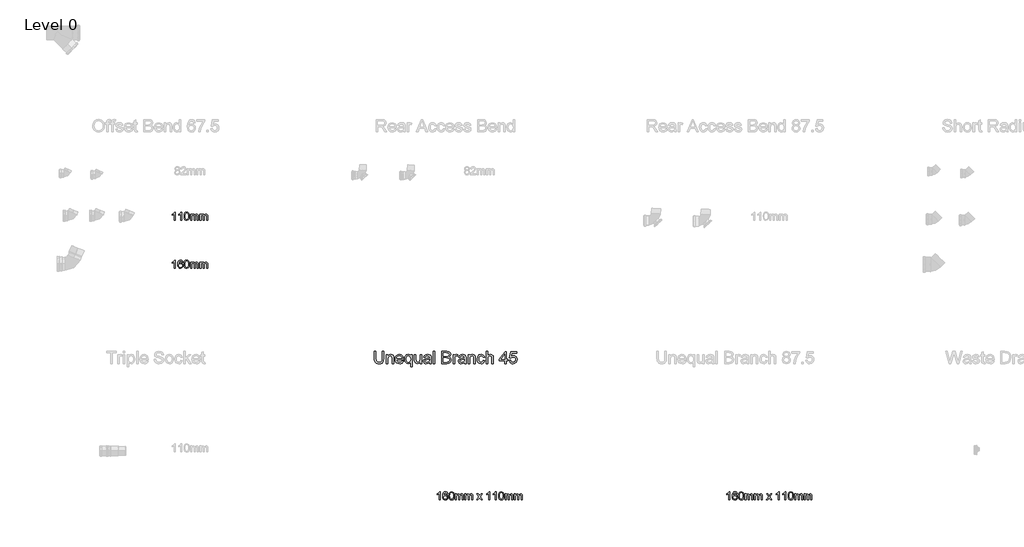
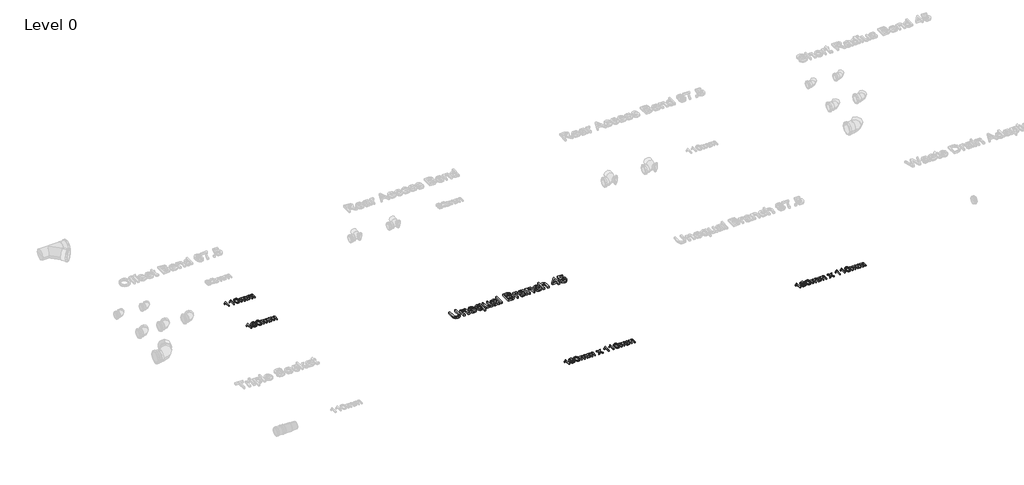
# One storey, part 3 of 23: 5 proxies.
"""IFC4 building model written with IfcOpenShell, lengths in millimetres."""

import ifcopenshell
import ifcopenshell.guid

model = None  # the IFC model being written
_history = None  # IfcOwnerHistory: only IFC2X3 demands one
_inside = {}  # id of a spatial element -> (the spatial element, [elements in it])
_under = {}  # id of a project, library or spatial element -> (it, [spatial elements below it])
_declared = {}  # id of a project -> (the project, [libraries it declares])
_typed = {}  # id of a type object -> (the type object, [elements of that type])
_made_of = {}  # id of a material, layer set ... -> (it, [elements and type objects made of it])


def new_model(schema):
    """Start an empty IFC model of exactly this schema.

    Asked for "IFC4X3", IfcOpenShell would pick the latest addendum, in which some entities
    have other attributes; the version numbers below select the first issue.
    IFC2X3 requires an IfcOwnerHistory on every rooted entity: one is made here for all.
    """
    global model, _history
    if schema == "IFC4X3":
        model = ifcopenshell.file(schema_version=(4, 3, 0, 0))
    else:
        model = ifcopenshell.file(schema=schema)
    _inside.clear()
    _under.clear()
    _declared.clear()
    _typed.clear()
    _made_of.clear()
    _history = None
    if model.schema == "IFC2X3":
        org = make("IfcOrganization", Name="unknown")
        user = make(
            "IfcPersonAndOrganization",
            ThePerson=make("IfcPerson", FamilyName="unknown"),
            TheOrganization=org,
        )
        app = make(
            "IfcApplication",
            ApplicationDeveloper=org,
            Version="unknown",
            ApplicationFullName="unknown",
            ApplicationIdentifier="unknown",
        )
        _history = make(
            "IfcOwnerHistory",
            OwningUser=user,
            OwningApplication=app,
            ChangeAction="ADDED",
            CreationDate=0,
        )
    return model


def make(cls, **values):
    """One entity of the class cls with the attributes given. An attribute that is None is left unset."""
    return model.create_entity(
        cls, **{name: value for name, value in values.items() if value is not None}
    )


def rooted(cls, **values):
    """An entity with a GlobalId (a new one), such as an element, a storey or a relation."""
    return make(cls, GlobalId=ifcopenshell.guid.new(), OwnerHistory=_history, **values)


def si_unit(unit_type, name, prefix=None):
    """IfcSIUnit, for example si_unit("LENGTHUNIT", "METRE", prefix="MILLI")."""
    return make("IfcSIUnit", UnitType=unit_type, Prefix=prefix, Name=name)


def assignment(units):
    """IfcUnitAssignment: the units of a project."""
    return None if units is None else make("IfcUnitAssignment", Units=units)


def point(xyz):
    """IfcCartesianPoint."""
    return None if xyz is None else make("IfcCartesianPoint", Coordinates=xyz)


def direction(xyz):
    """IfcDirection."""
    return None if xyz is None else make("IfcDirection", DirectionRatios=xyz)


def frame(location, z_axis=None, x_axis=None):
    """IfcAxis2Placement3D, a coordinate frame: its origin and axes. An axis left out is left unset."""
    return make(
        "IfcAxis2Placement3D",
        Location=point(location),
        Axis=direction(z_axis),
        RefDirection=direction(x_axis),
    )


def origin():
    """The frame at (0, 0, 0) with its axes left unset."""
    return frame((0.0, 0.0, 0.0))


def origin_with_axes():
    """The frame at (0, 0, 0) with the z axis (0, 0, 1) and the x axis (1, 0, 0) written out."""
    return frame((0.0, 0.0, 0.0), z_axis=(0.0, 0.0, 1.0), x_axis=(1.0, 0.0, 0.0))


def place(relative_to, where):
    """IfcLocalPlacement: puts the frame where relative to a parent placement (None: the world)."""
    return make(
        "IfcLocalPlacement", PlacementRelTo=relative_to, RelativePlacement=where
    )


def context(
    kind, dimensions, precision=None, world=None, true_north=None, identifier=None
):
    """IfcGeometricRepresentationContext, for example the 3D "Model" context."""
    return make(
        "IfcGeometricRepresentationContext",
        ContextIdentifier=identifier,
        ContextType=kind,
        CoordinateSpaceDimension=dimensions,
        Precision=precision,
        WorldCoordinateSystem=world,
        TrueNorth=true_north,
    )


def project(units=None, contexts=None):
    """IfcProject with its units and contexts."""
    return rooted(
        "IfcProject",
        Name="project",
        RepresentationContexts=contexts,
        UnitsInContext=assignment(units),
    )


def spatial(cls, under=None, at=None, **own):
    """A site, building, storey or space (cls), placed at a placement, below another one or the project."""
    s = rooted(cls, ObjectPlacement=at, **own)
    if under is not None:
        _under.setdefault(under.id(), (under, []))[1].append(s)
    return s


def polyline(points):
    """IfcPolyline through the points."""
    return make("IfcPolyline", Points=[point(p) for p in points])


def outline(outer, holes=None, kind="AREA"):
    """IfcArbitraryClosedProfileDef: a profile drawn as a closed curve; with holes, ...WithVoids."""
    if holes is None:
        return make("IfcArbitraryClosedProfileDef", ProfileType=kind, OuterCurve=outer)
    return make(
        "IfcArbitraryProfileDefWithVoids",
        ProfileType=kind,
        OuterCurve=outer,
        InnerCurves=holes,
    )


def extrude(swept, where, along, depth):
    """IfcExtrudedAreaSolid: the profile swept, set in the frame where, extruded along a direction by depth."""
    return make(
        "IfcExtrudedAreaSolid",
        SweptArea=swept,
        Position=where,
        ExtrudedDirection=direction(along),
        Depth=depth,
    )


def shape(context_of_items, identifier, shape_type, items):
    """IfcShapeRepresentation: the items that make up one representation, for example the "Body"."""
    return make(
        "IfcShapeRepresentation",
        ContextOfItems=context_of_items,
        RepresentationIdentifier=identifier,
        RepresentationType=shape_type,
        Items=items,
    )


def made_of(thing, what):
    """Note that an element or type object is made of a material, layer set ...; save() writes the relation."""
    if what is not None:
        _made_of.setdefault(what.id(), (what, []))[1].append(thing)
    return thing


def element(
    cls,
    number,
    at=None,
    inside=None,
    cuts=None,
    type_object=None,
    material=None,
    context=None,
    identifier="Body",
    shape_type=None,
    held_by="IfcProductDefinitionShape",
    body=None,
    shapes=None,
    **own,
):
    """One element of the class cls, such as IfcWall. Its Tag is "e" and its number.

    at: its placement. inside: the storey or other place that contains it. cuts: it is an
    opening in that element (IfcRelVoidsElement). A single representation is given by context,
    identifier, shape_type and body (its items); several are given by shapes. held_by: the class
    of the entity that holds the representations. save() writes the other relations.
    """
    e = rooted(cls, Tag="e%d" % number, ObjectPlacement=at, **own)
    if body is not None:
        shapes = [shape(context, identifier, shape_type, body)]
    if shapes is not None:
        e.Representation = make(held_by, Representations=shapes)
    if inside is not None:
        _inside.setdefault(inside.id(), (inside, []))[1].append(e)
    if cuts is not None:
        rooted(
            "IfcRelVoidsElement", RelatingBuildingElement=cuts, RelatedOpeningElement=e
        )
    if type_object is not None:
        _typed.setdefault(type_object.id(), (type_object, []))[1].append(e)
    return made_of(e, material)


def aggregate(whole, parts):
    """IfcRelAggregates: a whole, such as a stair, and the parts it consists of."""
    return rooted("IfcRelAggregates", RelatingObject=whole, RelatedObjects=parts)


def save(model, path):
    """Write the relations noted so far, then the file.

    IfcRelAggregates (storeys below a building ...), IfcRelContainedInSpatialStructure (elements
    in a storey), IfcRelDefinesByType, IfcRelAssociatesMaterial and IfcRelDeclares: one each for
    every whole, place, type object, material and project.
    """
    for whole, parts in _under.values():
        aggregate(whole, parts)
    for where, things in _inside.values():
        rooted(
            "IfcRelContainedInSpatialStructure",
            RelatedElements=things,
            RelatingStructure=where,
        )
    for kind, things in _typed.values():
        rooted("IfcRelDefinesByType", RelatedObjects=things, RelatingType=kind)
    for what, things in _made_of.values():
        rooted("IfcRelAssociatesMaterial", RelatedObjects=things, RelatingMaterial=what)
    for by, libraries in _declared.values():
        rooted("IfcRelDeclares", RelatingContext=by, RelatedDefinitions=libraries)
    model.write(path)


model = new_model("IFC4")

# Units and contexts
model_context = context("Model", 3, world=origin())
ifc_project = project(units=[si_unit("LENGTHUNIT", "METRE", prefix="MILLI")], contexts=[model_context])

# Site, building, storey
site = spatial("IfcSite", under=ifc_project)
building = spatial("IfcBuilding", under=site)
storey = spatial("IfcBuildingStorey", under=building, Name="Level 0", Elevation=0.0)

# Proxies
placement = place(None, origin())
element("IfcBuildingElementProxy", 1, Name="100mm Arial", ObjectType="100mm Arial", at=placement, inside=storey, context=model_context, shape_type="SweptSolid", body=[
    extrude(outline(polyline([(-17291.7293188, -742.2832696), (-17304.0370111, -742.2832696), (-17304.0370111, -665.5525004), (-17315.6956649, -673.8577889), (-17328.6523957, -680.0717312), (-17328.6523957, -668.4371158), (-17310.6115303, -656.9226927), (-17299.6620111, -643.8217312), (-17291.7293188, -643.8217312), (-17291.7293188, -742.2832696)])), origin_with_axes(), (0.0, 0.0, 1.0), 15.0),
    extrude(outline(polyline([(-17199.4216264, -669.9755773), (-17211.7293188, -671.5140389), (-17216.3927803, -661.2496158), (-17228.7245111, -656.1294235), (-17239.8302803, -659.1101927), (-17248.2317226, -670.3000965), (-17251.7293188, -692.2351927), (-17240.8759534, -682.4154812), (-17227.4264341, -679.2063465), (-17216.0562418, -681.3998562), (-17206.5129726, -687.980385), (-17200.0406168, -698.0344715), (-17197.8831649, -710.6486542), (-17201.9456649, -727.6318273), (-17213.1235495, -739.6510581), (-17229.2533572, -743.8217312), (-17243.2166986, -741.0573081), (-17254.3374918, -732.7640389), (-17261.6121313, -718.1246158), (-17264.0370111, -696.3217312), (-17261.3447034, -671.80851), (-17253.2677803, -655.0476927), (-17242.2401361, -646.6282215), (-17227.9552803, -643.8217312), (-17217.1560014, -645.55851), (-17208.5081649, -650.7688465), (-17202.4504726, -659.0440869), (-17199.4216264, -669.9755773)]), holes=[polyline([(-17251.7293188, -710.4563465), (-17248.8807611, -721.1174042), (-17241.3086457, -728.8577889), (-17230.2148957, -731.5140389), (-17222.0929005, -730.1378369), (-17215.7076841, -726.0092312), (-17211.5700639, -719.5188465), (-17210.1908572, -711.0573081), (-17211.5520351, -702.9353129), (-17215.6355688, -696.7424042), (-17230.7197034, -691.5140389), (-17245.6115303, -696.7424042), (-17250.1998716, -702.7850725), (-17251.7293188, -710.4563465)])]), origin_with_axes(), (0.0, 0.0, 1.0), 15.0),
    extrude(outline(polyline([(-17187.1139341, -693.8457696), (-17183.4961457, -665.5164427), (-17172.7509534, -649.1823081), (-17154.8062418, -643.8217312), (-17140.4312418, -646.9948081), (-17130.5033572, -656.1414427), (-17124.7341264, -670.7087504), (-17122.4985495, -693.8457696), (-17126.0802803, -722.0549042), (-17136.7894149, -738.4250965), (-17154.8062418, -743.8217312), (-17167.5947034, -741.4779812), (-17177.3062418, -734.4467312), (-17184.6620111, -717.7940869), (-17187.1139341, -693.8457696)]), holes=[polyline([(-17174.8062418, -693.8217312), (-17173.3639341, -713.1817071), (-17169.0370111, -724.386635), (-17162.5947034, -729.7321879), (-17154.8062418, -731.5140389), (-17147.0177803, -729.7261783), (-17140.5754726, -724.3625965), (-17136.2485495, -713.151659), (-17134.8062418, -693.8217312), (-17136.2004726, -674.8974523), (-17140.3831649, -663.605385), (-17146.8134534, -657.9984139), (-17154.9504726, -656.1294235), (-17162.6547995, -657.7760581), (-17168.8447034, -662.7159619), (-17173.3158572, -674.7111542), (-17174.8062418, -693.8217312)])]), origin_with_axes(), (0.0, 0.0, 1.0), 15.0),
    extrude(outline(polyline([(-17108.6523957, -742.2832696), (-17108.6523957, -669.9755773), (-17096.3447034, -669.9755773), (-17096.3447034, -681.8746158), (-17087.8831649, -672.1270196), (-17075.8398957, -668.4371158), (-17063.5081649, -672.199135), (-17056.7293188, -682.7400004), (-17047.1259534, -672.0128369), (-17034.9985495, -668.4371158), (-17025.7467466, -669.9244956), (-17018.9047995, -674.386635), (-17014.6770351, -681.9437264), (-17013.2677803, -692.7159619), (-17013.2677803, -742.2832696), (-17025.5754726, -742.2832696), (-17025.5754726, -698.0044235), (-17026.7172995, -687.7279812), (-17030.8519149, -682.667885), (-17037.8831649, -680.7448081), (-17049.9865303, -685.6726927), (-17054.8062418, -701.4659619), (-17054.8062418, -742.2832696), (-17067.1139341, -742.2832696), (-17067.1139341, -696.6342312), (-17069.9624918, -684.7111542), (-17079.3014341, -680.7448081), (-17088.4120111, -683.3890389), (-17094.4697034, -691.1294235), (-17096.3447034, -705.8169235), (-17096.3447034, -742.2832696), (-17108.6523957, -742.2832696)])), origin_with_axes(), (0.0, 0.0, 1.0), 15.0),
    extrude(outline(polyline([(-16994.8062418, -742.2832696), (-16994.8062418, -669.9755773), (-16982.4985495, -669.9755773), (-16982.4985495, -681.8746158), (-16974.0370111, -672.1270196), (-16961.9937418, -668.4371158), (-16949.6620111, -672.199135), (-16942.8831649, -682.7400004), (-16933.2797995, -672.0128369), (-16921.1523957, -668.4371158), (-16911.9005928, -669.9244956), (-16905.0586457, -674.386635), (-16900.8308813, -681.9437264), (-16899.4216264, -692.7159619), (-16899.4216264, -742.2832696), (-16911.7293188, -742.2832696), (-16911.7293188, -698.0044235), (-16912.8711457, -687.7279812), (-16917.0057611, -682.667885), (-16924.0370111, -680.7448081), (-16936.1403764, -685.6726927), (-16940.960088, -701.4659619), (-16940.960088, -742.2832696), (-16953.2677803, -742.2832696), (-16953.2677803, -696.6342312), (-16956.116338, -684.7111542), (-16965.4552803, -680.7448081), (-16974.5658572, -683.3890389), (-16980.6235495, -691.1294235), (-16982.4985495, -705.8169235), (-16982.4985495, -742.2832696), (-16994.8062418, -742.2832696)])), origin_with_axes(), (0.0, 0.0, 1.0), 15.0),
])
element("IfcBuildingElementProxy", 2, Name="100mm Arial", ObjectType="100mm Arial", at=placement, inside=storey, context=model_context, shape_type="SweptSolid", body=[
    extrude(outline(polyline([(-17291.7293188, -162.2832696), (-17304.0370111, -162.2832696), (-17304.0370111, -85.5525004), (-17315.6956649, -93.8577889), (-17328.6523957, -100.0717312), (-17328.6523957, -88.4371158), (-17310.6115303, -76.9226927), (-17299.6620111, -63.8217312), (-17291.7293188, -63.8217312), (-17291.7293188, -162.2832696)])), origin_with_axes(), (0.0, 0.0, 1.0), 15.0),
    extrude(outline(polyline([(-17216.3447034, -162.2832696), (-17228.6523957, -162.2832696), (-17228.6523957, -85.5525004), (-17240.3110495, -93.8577889), (-17253.2677803, -100.0717312), (-17253.2677803, -88.4371158), (-17235.2269149, -76.9226927), (-17224.2773957, -63.8217312), (-17216.3447034, -63.8217312), (-17216.3447034, -162.2832696)])), origin_with_axes(), (0.0, 0.0, 1.0), 15.0),
    extrude(outline(polyline([(-17187.1139341, -113.8457696), (-17183.4961457, -85.5164427), (-17172.7509534, -69.1823081), (-17154.8062418, -63.8217312), (-17140.4312418, -66.9948081), (-17130.5033572, -76.1414427), (-17124.7341264, -90.7087504), (-17122.4985495, -113.8457696), (-17126.0802803, -142.0549042), (-17136.7894149, -158.4250965), (-17154.8062418, -163.8217312), (-17167.5947034, -161.4779812), (-17177.3062418, -154.4467312), (-17184.6620111, -137.7940869), (-17187.1139341, -113.8457696)]), holes=[polyline([(-17174.8062418, -113.8217312), (-17173.3639341, -133.1817071), (-17169.0370111, -144.386635), (-17162.5947034, -149.7321879), (-17154.8062418, -151.5140389), (-17147.0177803, -149.7261783), (-17140.5754726, -144.3625965), (-17136.2485495, -133.151659), (-17134.8062418, -113.8217312), (-17136.2004726, -94.8974523), (-17140.3831649, -83.605385), (-17146.8134534, -77.9984139), (-17154.9504726, -76.1294235), (-17162.6547995, -77.7760581), (-17168.8447034, -82.7159619), (-17173.3158572, -94.7111542), (-17174.8062418, -113.8217312)])]), origin_with_axes(), (0.0, 0.0, 1.0), 15.0),
    extrude(outline(polyline([(-17108.6523957, -162.2832696), (-17108.6523957, -89.9755773), (-17096.3447034, -89.9755773), (-17096.3447034, -101.8746158), (-17087.8831649, -92.1270196), (-17075.8398957, -88.4371158), (-17063.5081649, -92.199135), (-17056.7293188, -102.7400004), (-17047.1259534, -92.0128369), (-17034.9985495, -88.4371158), (-17025.7467466, -89.9244956), (-17018.9047995, -94.386635), (-17014.6770351, -101.9437264), (-17013.2677803, -112.7159619), (-17013.2677803, -162.2832696), (-17025.5754726, -162.2832696), (-17025.5754726, -118.0044235), (-17026.7172995, -107.7279812), (-17030.8519149, -102.667885), (-17037.8831649, -100.7448081), (-17049.9865303, -105.6726927), (-17054.8062418, -121.4659619), (-17054.8062418, -162.2832696), (-17067.1139341, -162.2832696), (-17067.1139341, -116.6342312), (-17069.9624918, -104.7111542), (-17079.3014341, -100.7448081), (-17088.4120111, -103.3890389), (-17094.4697034, -111.1294235), (-17096.3447034, -125.8169235), (-17096.3447034, -162.2832696), (-17108.6523957, -162.2832696)])), origin_with_axes(), (0.0, 0.0, 1.0), 15.0),
    extrude(outline(polyline([(-16994.8062418, -162.2832696), (-16994.8062418, -89.9755773), (-16982.4985495, -89.9755773), (-16982.4985495, -101.8746158), (-16974.0370111, -92.1270196), (-16961.9937418, -88.4371158), (-16949.6620111, -92.199135), (-16942.8831649, -102.7400004), (-16933.2797995, -92.0128369), (-16921.1523957, -88.4371158), (-16911.9005928, -89.9244956), (-16905.0586457, -94.386635), (-16900.8308813, -101.9437264), (-16899.4216264, -112.7159619), (-16899.4216264, -162.2832696), (-16911.7293188, -162.2832696), (-16911.7293188, -118.0044235), (-16912.8711457, -107.7279812), (-16917.0057611, -102.667885), (-16924.0370111, -100.7448081), (-16936.1403764, -105.6726927), (-16940.960088, -121.4659619), (-16940.960088, -162.2832696), (-16953.2677803, -162.2832696), (-16953.2677803, -116.6342312), (-16956.116338, -104.7111542), (-16965.4552803, -100.7448081), (-16974.5658572, -103.3890389), (-16980.6235495, -111.1294235), (-16982.4985495, -125.8169235), (-16982.4985495, -162.2832696), (-16994.8062418, -162.2832696)])), origin_with_axes(), (0.0, 0.0, 1.0), 15.0),
])
element("IfcBuildingElementProxy", 3, Name="100mm Arial", ObjectType="100mm Arial", at=placement, inside=storey, context=model_context, shape_type="SweptSolid", body=[
    extrude(outline(polyline([(-14091.7293188, -3542.2832696), (-14104.0370111, -3542.2832696), (-14104.0370111, -3465.5525004), (-14115.6956649, -3473.8577889), (-14128.6523957, -3480.0717312), (-14128.6523957, -3468.4371158), (-14110.6115303, -3456.9226927), (-14099.6620111, -3443.8217312), (-14091.7293188, -3443.8217312), (-14091.7293188, -3542.2832696)])), origin_with_axes(), (0.0, 0.0, 1.0), 15.0),
    extrude(outline(polyline([(-13999.4216264, -3469.9755773), (-14011.7293188, -3471.5140389), (-14016.3927803, -3461.2496158), (-14028.7245111, -3456.1294235), (-14039.8302803, -3459.1101927), (-14048.2317226, -3470.3000965), (-14051.7293188, -3492.2351927), (-14040.8759534, -3482.4154812), (-14027.4264341, -3479.2063465), (-14016.0562418, -3481.3998562), (-14006.5129726, -3487.980385), (-14000.0406168, -3498.0344715), (-13997.8831649, -3510.6486542), (-14001.9456649, -3527.6318273), (-14013.1235495, -3539.6510581), (-14029.2533572, -3543.8217312), (-14043.2166986, -3541.0573081), (-14054.3374918, -3532.7640389), (-14061.6121313, -3518.1246158), (-14064.0370111, -3496.3217312), (-14061.3447034, -3471.80851), (-14053.2677803, -3455.0476927), (-14042.2401361, -3446.6282215), (-14027.9552803, -3443.8217312), (-14017.1560014, -3445.55851), (-14008.5081649, -3450.7688465), (-14002.4504726, -3459.0440869), (-13999.4216264, -3469.9755773)]), holes=[polyline([(-14051.7293188, -3510.4563465), (-14048.8807611, -3521.1174042), (-14041.3086457, -3528.8577889), (-14030.2148957, -3531.5140389), (-14022.0929005, -3530.1378369), (-14015.7076841, -3526.0092312), (-14011.5700639, -3519.5188465), (-14010.1908572, -3511.0573081), (-14011.5520351, -3502.9353129), (-14015.6355688, -3496.7424042), (-14030.7197034, -3491.5140389), (-14045.6115303, -3496.7424042), (-14050.1998716, -3502.7850725), (-14051.7293188, -3510.4563465)])]), origin_with_axes(), (0.0, 0.0, 1.0), 15.0),
    extrude(outline(polyline([(-13987.1139341, -3493.8457696), (-13983.4961457, -3465.5164427), (-13972.7509534, -3449.1823081), (-13954.8062418, -3443.8217312), (-13940.4312418, -3446.9948081), (-13930.5033572, -3456.1414427), (-13924.7341264, -3470.7087504), (-13922.4985495, -3493.8457696), (-13926.0802803, -3522.0549042), (-13936.7894149, -3538.4250965), (-13954.8062418, -3543.8217312), (-13967.5947034, -3541.4779812), (-13977.3062418, -3534.4467312), (-13984.6620111, -3517.7940869), (-13987.1139341, -3493.8457696)]), holes=[polyline([(-13974.8062418, -3493.8217312), (-13973.3639341, -3513.1817071), (-13969.0370111, -3524.386635), (-13962.5947034, -3529.7321879), (-13954.8062418, -3531.5140389), (-13947.0177803, -3529.7261783), (-13940.5754726, -3524.3625965), (-13936.2485495, -3513.151659), (-13934.8062418, -3493.8217312), (-13936.2004726, -3474.8974523), (-13940.3831649, -3463.605385), (-13946.8134534, -3457.9984139), (-13954.9504726, -3456.1294235), (-13962.6547995, -3457.7760581), (-13968.8447034, -3462.7159619), (-13973.3158572, -3474.7111542), (-13974.8062418, -3493.8217312)])]), origin_with_axes(), (0.0, 0.0, 1.0), 15.0),
    extrude(outline(polyline([(-13908.6523957, -3542.2832696), (-13908.6523957, -3469.9755773), (-13896.3447034, -3469.9755773), (-13896.3447034, -3481.8746158), (-13887.8831649, -3472.1270196), (-13875.8398957, -3468.4371158), (-13863.5081649, -3472.199135), (-13856.7293188, -3482.7400004), (-13847.1259534, -3472.0128369), (-13834.9985495, -3468.4371158), (-13825.7467466, -3469.9244956), (-13818.9047995, -3474.386635), (-13814.6770351, -3481.9437264), (-13813.2677803, -3492.7159619), (-13813.2677803, -3542.2832696), (-13825.5754726, -3542.2832696), (-13825.5754726, -3498.0044235), (-13826.7172995, -3487.7279812), (-13830.8519149, -3482.667885), (-13837.8831649, -3480.7448081), (-13849.9865303, -3485.6726927), (-13854.8062418, -3501.4659619), (-13854.8062418, -3542.2832696), (-13867.1139341, -3542.2832696), (-13867.1139341, -3496.6342312), (-13869.9624918, -3484.7111542), (-13879.3014341, -3480.7448081), (-13888.4120111, -3483.3890389), (-13894.4697034, -3491.1294235), (-13896.3447034, -3505.8169235), (-13896.3447034, -3542.2832696), (-13908.6523957, -3542.2832696)])), origin_with_axes(), (0.0, 0.0, 1.0), 15.0),
    extrude(outline(polyline([(-13794.8062418, -3542.2832696), (-13794.8062418, -3469.9755773), (-13782.4985495, -3469.9755773), (-13782.4985495, -3481.8746158), (-13774.0370111, -3472.1270196), (-13761.9937418, -3468.4371158), (-13749.6620111, -3472.199135), (-13742.8831649, -3482.7400004), (-13733.2797995, -3472.0128369), (-13721.1523957, -3468.4371158), (-13711.9005928, -3469.9244956), (-13705.0586457, -3474.386635), (-13700.8308813, -3481.9437264), (-13699.4216264, -3492.7159619), (-13699.4216264, -3542.2832696), (-13711.7293188, -3542.2832696), (-13711.7293188, -3498.0044235), (-13712.8711457, -3487.7279812), (-13717.0057611, -3482.667885), (-13724.0370111, -3480.7448081), (-13736.1403764, -3485.6726927), (-13740.960088, -3501.4659619), (-13740.960088, -3542.2832696), (-13753.2677803, -3542.2832696), (-13753.2677803, -3496.6342312), (-13756.116338, -3484.7111542), (-13765.4552803, -3480.7448081), (-13774.5658572, -3483.3890389), (-13780.6235495, -3491.1294235), (-13782.4985495, -3505.8169235), (-13782.4985495, -3542.2832696), (-13794.8062418, -3542.2832696)])), origin_with_axes(), (0.0, 0.0, 1.0), 15.0),
    extrude(outline(polyline([(-13650.1908572, -3542.2832696), (-13623.8927803, -3505.9371158), (-13648.6523957, -3469.9755773), (-13633.8447034, -3469.9755773), (-13621.897588, -3487.2832696), (-13616.3206649, -3495.4563465), (-13611.4889341, -3488.7736542), (-13597.8831649, -3469.9755773), (-13583.0754726, -3469.9755773), (-13609.085088, -3505.9371158), (-13584.0370111, -3542.2832696), (-13598.8447034, -3542.2832696), (-13613.9168188, -3520.4323081), (-13616.6812418, -3516.4419235), (-13635.3831649, -3542.2832696), (-13650.1908572, -3542.2832696)])), origin_with_axes(), (0.0, 0.0, 1.0), 15.0),
    extrude(outline(polyline([(-13491.7293188, -3542.2832696), (-13504.0370111, -3542.2832696), (-13504.0370111, -3465.5525004), (-13515.6956649, -3473.8577889), (-13528.6523957, -3480.0717312), (-13528.6523957, -3468.4371158), (-13510.6115303, -3456.9226927), (-13499.6620111, -3443.8217312), (-13491.7293188, -3443.8217312), (-13491.7293188, -3542.2832696)])), origin_with_axes(), (0.0, 0.0, 1.0), 15.0),
    extrude(outline(polyline([(-13416.3447034, -3542.2832696), (-13428.6523957, -3542.2832696), (-13428.6523957, -3465.5525004), (-13440.3110495, -3473.8577889), (-13453.2677803, -3480.0717312), (-13453.2677803, -3468.4371158), (-13435.2269149, -3456.9226927), (-13424.2773957, -3443.8217312), (-13416.3447034, -3443.8217312), (-13416.3447034, -3542.2832696)])), origin_with_axes(), (0.0, 0.0, 1.0), 15.0),
    extrude(outline(polyline([(-13387.1139341, -3493.8457696), (-13383.4961457, -3465.5164427), (-13372.7509534, -3449.1823081), (-13354.8062418, -3443.8217312), (-13340.4312418, -3446.9948081), (-13330.5033572, -3456.1414427), (-13324.7341264, -3470.7087504), (-13322.4985495, -3493.8457696), (-13326.0802803, -3522.0549042), (-13336.7894149, -3538.4250965), (-13354.8062418, -3543.8217312), (-13367.5947034, -3541.4779812), (-13377.3062418, -3534.4467312), (-13384.6620111, -3517.7940869), (-13387.1139341, -3493.8457696)]), holes=[polyline([(-13374.8062418, -3493.8217312), (-13373.3639341, -3513.1817071), (-13369.0370111, -3524.386635), (-13362.5947034, -3529.7321879), (-13354.8062418, -3531.5140389), (-13347.0177803, -3529.7261783), (-13340.5754726, -3524.3625965), (-13336.2485495, -3513.151659), (-13334.8062418, -3493.8217312), (-13336.2004726, -3474.8974523), (-13340.3831649, -3463.605385), (-13346.8134534, -3457.9984139), (-13354.9504726, -3456.1294235), (-13362.6547995, -3457.7760581), (-13368.8447034, -3462.7159619), (-13373.3158572, -3474.7111542), (-13374.8062418, -3493.8217312)])]), origin_with_axes(), (0.0, 0.0, 1.0), 15.0),
    extrude(outline(polyline([(-13308.6523957, -3542.2832696), (-13308.6523957, -3469.9755773), (-13296.3447034, -3469.9755773), (-13296.3447034, -3481.8746158), (-13287.8831649, -3472.1270196), (-13275.8398957, -3468.4371158), (-13263.5081649, -3472.199135), (-13256.7293188, -3482.7400004), (-13247.1259534, -3472.0128369), (-13234.9985495, -3468.4371158), (-13225.7467466, -3469.9244956), (-13218.9047995, -3474.386635), (-13214.6770351, -3481.9437264), (-13213.2677803, -3492.7159619), (-13213.2677803, -3542.2832696), (-13225.5754726, -3542.2832696), (-13225.5754726, -3498.0044235), (-13226.7172995, -3487.7279812), (-13230.8519149, -3482.667885), (-13237.8831649, -3480.7448081), (-13249.9865303, -3485.6726927), (-13254.8062418, -3501.4659619), (-13254.8062418, -3542.2832696), (-13267.1139341, -3542.2832696), (-13267.1139341, -3496.6342312), (-13269.9624918, -3484.7111542), (-13279.3014341, -3480.7448081), (-13288.4120111, -3483.3890389), (-13294.4697034, -3491.1294235), (-13296.3447034, -3505.8169235), (-13296.3447034, -3542.2832696), (-13308.6523957, -3542.2832696)])), origin_with_axes(), (0.0, 0.0, 1.0), 15.0),
    extrude(outline(polyline([(-13194.8062418, -3542.2832696), (-13194.8062418, -3469.9755773), (-13182.4985495, -3469.9755773), (-13182.4985495, -3481.8746158), (-13174.0370111, -3472.1270196), (-13161.9937418, -3468.4371158), (-13149.6620111, -3472.199135), (-13142.8831649, -3482.7400004), (-13133.2797995, -3472.0128369), (-13121.1523957, -3468.4371158), (-13111.9005928, -3469.9244956), (-13105.0586457, -3474.386635), (-13100.8308813, -3481.9437264), (-13099.4216264, -3492.7159619), (-13099.4216264, -3542.2832696), (-13111.7293188, -3542.2832696), (-13111.7293188, -3498.0044235), (-13112.8711457, -3487.7279812), (-13117.0057611, -3482.667885), (-13124.0370111, -3480.7448081), (-13136.1403764, -3485.6726927), (-13140.960088, -3501.4659619), (-13140.960088, -3542.2832696), (-13153.2677803, -3542.2832696), (-13153.2677803, -3496.6342312), (-13156.116338, -3484.7111542), (-13165.4552803, -3480.7448081), (-13174.5658572, -3483.3890389), (-13180.6235495, -3491.1294235), (-13182.4985495, -3505.8169235), (-13182.4985495, -3542.2832696), (-13194.8062418, -3542.2832696)])), origin_with_axes(), (0.0, 0.0, 1.0), 15.0),
])
element("IfcBuildingElementProxy", 4, Name="100mm Arial", ObjectType="100mm Arial", at=placement, inside=storey, context=model_context, shape_type="SweptSolid", body=[
    extrude(outline(polyline([(-10591.7293188, -3542.2832696), (-10604.0370111, -3542.2832696), (-10604.0370111, -3465.5525004), (-10615.6956649, -3473.8577889), (-10628.6523957, -3480.0717312), (-10628.6523957, -3468.4371158), (-10610.6115303, -3456.9226927), (-10599.6620111, -3443.8217312), (-10591.7293188, -3443.8217312), (-10591.7293188, -3542.2832696)])), origin_with_axes(), (0.0, 0.0, 1.0), 15.0),
    extrude(outline(polyline([(-10499.4216264, -3469.9755773), (-10511.7293188, -3471.5140389), (-10516.3927803, -3461.2496158), (-10528.7245111, -3456.1294235), (-10539.8302803, -3459.1101927), (-10548.2317226, -3470.3000965), (-10551.7293188, -3492.2351927), (-10540.8759534, -3482.4154812), (-10527.4264341, -3479.2063465), (-10516.0562418, -3481.3998562), (-10506.5129726, -3487.980385), (-10500.0406168, -3498.0344715), (-10497.8831649, -3510.6486542), (-10501.9456649, -3527.6318273), (-10513.1235495, -3539.6510581), (-10529.2533572, -3543.8217312), (-10543.2166986, -3541.0573081), (-10554.3374918, -3532.7640389), (-10561.6121313, -3518.1246158), (-10564.0370111, -3496.3217312), (-10561.3447034, -3471.80851), (-10553.2677803, -3455.0476927), (-10542.2401361, -3446.6282215), (-10527.9552803, -3443.8217312), (-10517.1560014, -3445.55851), (-10508.5081649, -3450.7688465), (-10502.4504726, -3459.0440869), (-10499.4216264, -3469.9755773)]), holes=[polyline([(-10551.7293188, -3510.4563465), (-10548.8807611, -3521.1174042), (-10541.3086457, -3528.8577889), (-10530.2148957, -3531.5140389), (-10522.0929005, -3530.1378369), (-10515.7076841, -3526.0092312), (-10511.5700639, -3519.5188465), (-10510.1908572, -3511.0573081), (-10511.5520351, -3502.9353129), (-10515.6355688, -3496.7424042), (-10530.7197034, -3491.5140389), (-10545.6115303, -3496.7424042), (-10550.1998716, -3502.7850725), (-10551.7293188, -3510.4563465)])]), origin_with_axes(), (0.0, 0.0, 1.0), 15.0),
    extrude(outline(polyline([(-10487.1139341, -3493.8457696), (-10483.4961457, -3465.5164427), (-10472.7509534, -3449.1823081), (-10454.8062418, -3443.8217312), (-10440.4312418, -3446.9948081), (-10430.5033572, -3456.1414427), (-10424.7341264, -3470.7087504), (-10422.4985495, -3493.8457696), (-10426.0802803, -3522.0549042), (-10436.7894149, -3538.4250965), (-10454.8062418, -3543.8217312), (-10467.5947034, -3541.4779812), (-10477.3062418, -3534.4467312), (-10484.6620111, -3517.7940869), (-10487.1139341, -3493.8457696)]), holes=[polyline([(-10474.8062418, -3493.8217312), (-10473.3639341, -3513.1817071), (-10469.0370111, -3524.386635), (-10462.5947034, -3529.7321879), (-10454.8062418, -3531.5140389), (-10447.0177803, -3529.7261783), (-10440.5754726, -3524.3625965), (-10436.2485495, -3513.151659), (-10434.8062418, -3493.8217312), (-10436.2004726, -3474.8974523), (-10440.3831649, -3463.605385), (-10446.8134534, -3457.9984139), (-10454.9504726, -3456.1294235), (-10462.6547995, -3457.7760581), (-10468.8447034, -3462.7159619), (-10473.3158572, -3474.7111542), (-10474.8062418, -3493.8217312)])]), origin_with_axes(), (0.0, 0.0, 1.0), 15.0),
    extrude(outline(polyline([(-10408.6523957, -3542.2832696), (-10408.6523957, -3469.9755773), (-10396.3447034, -3469.9755773), (-10396.3447034, -3481.8746158), (-10387.8831649, -3472.1270196), (-10375.8398957, -3468.4371158), (-10363.5081649, -3472.199135), (-10356.7293188, -3482.7400004), (-10347.1259534, -3472.0128369), (-10334.9985495, -3468.4371158), (-10325.7467466, -3469.9244956), (-10318.9047995, -3474.386635), (-10314.6770351, -3481.9437264), (-10313.2677803, -3492.7159619), (-10313.2677803, -3542.2832696), (-10325.5754726, -3542.2832696), (-10325.5754726, -3498.0044235), (-10326.7172995, -3487.7279812), (-10330.8519149, -3482.667885), (-10337.8831649, -3480.7448081), (-10349.9865303, -3485.6726927), (-10354.8062418, -3501.4659619), (-10354.8062418, -3542.2832696), (-10367.1139341, -3542.2832696), (-10367.1139341, -3496.6342312), (-10369.9624918, -3484.7111542), (-10379.3014341, -3480.7448081), (-10388.4120111, -3483.3890389), (-10394.4697034, -3491.1294235), (-10396.3447034, -3505.8169235), (-10396.3447034, -3542.2832696), (-10408.6523957, -3542.2832696)])), origin_with_axes(), (0.0, 0.0, 1.0), 15.0),
    extrude(outline(polyline([(-10294.8062418, -3542.2832696), (-10294.8062418, -3469.9755773), (-10282.4985495, -3469.9755773), (-10282.4985495, -3481.8746158), (-10274.0370111, -3472.1270196), (-10261.9937418, -3468.4371158), (-10249.6620111, -3472.199135), (-10242.8831649, -3482.7400004), (-10233.2797995, -3472.0128369), (-10221.1523957, -3468.4371158), (-10211.9005928, -3469.9244956), (-10205.0586457, -3474.386635), (-10200.8308813, -3481.9437264), (-10199.4216264, -3492.7159619), (-10199.4216264, -3542.2832696), (-10211.7293188, -3542.2832696), (-10211.7293188, -3498.0044235), (-10212.8711457, -3487.7279812), (-10217.0057611, -3482.667885), (-10224.0370111, -3480.7448081), (-10236.1403764, -3485.6726927), (-10240.960088, -3501.4659619), (-10240.960088, -3542.2832696), (-10253.2677803, -3542.2832696), (-10253.2677803, -3496.6342312), (-10256.116338, -3484.7111542), (-10265.4552803, -3480.7448081), (-10274.5658572, -3483.3890389), (-10280.6235495, -3491.1294235), (-10282.4985495, -3505.8169235), (-10282.4985495, -3542.2832696), (-10294.8062418, -3542.2832696)])), origin_with_axes(), (0.0, 0.0, 1.0), 15.0),
    extrude(outline(polyline([(-10150.1908572, -3542.2832696), (-10123.8927803, -3505.9371158), (-10148.6523957, -3469.9755773), (-10133.8447034, -3469.9755773), (-10121.897588, -3487.2832696), (-10116.3206649, -3495.4563465), (-10111.4889341, -3488.7736542), (-10097.8831649, -3469.9755773), (-10083.0754726, -3469.9755773), (-10109.085088, -3505.9371158), (-10084.0370111, -3542.2832696), (-10098.8447034, -3542.2832696), (-10113.9168188, -3520.4323081), (-10116.6812418, -3516.4419235), (-10135.3831649, -3542.2832696), (-10150.1908572, -3542.2832696)])), origin_with_axes(), (0.0, 0.0, 1.0), 15.0),
    extrude(outline(polyline([(-9991.7293188, -3542.2832696), (-10004.0370111, -3542.2832696), (-10004.0370111, -3465.5525004), (-10015.6956649, -3473.8577889), (-10028.6523957, -3480.0717312), (-10028.6523957, -3468.4371158), (-10010.6115303, -3456.9226927), (-9999.6620111, -3443.8217312), (-9991.7293188, -3443.8217312), (-9991.7293188, -3542.2832696)])), origin_with_axes(), (0.0, 0.0, 1.0), 15.0),
    extrude(outline(polyline([(-9916.3447034, -3542.2832696), (-9928.6523957, -3542.2832696), (-9928.6523957, -3465.5525004), (-9940.3110495, -3473.8577889), (-9953.2677803, -3480.0717312), (-9953.2677803, -3468.4371158), (-9935.2269149, -3456.9226927), (-9924.2773957, -3443.8217312), (-9916.3447034, -3443.8217312), (-9916.3447034, -3542.2832696)])), origin_with_axes(), (0.0, 0.0, 1.0), 15.0),
    extrude(outline(polyline([(-9887.1139341, -3493.8457696), (-9883.4961457, -3465.5164427), (-9872.7509534, -3449.1823081), (-9854.8062418, -3443.8217312), (-9840.4312418, -3446.9948081), (-9830.5033572, -3456.1414427), (-9824.7341264, -3470.7087504), (-9822.4985495, -3493.8457696), (-9826.0802803, -3522.0549042), (-9836.7894149, -3538.4250965), (-9854.8062418, -3543.8217312), (-9867.5947034, -3541.4779812), (-9877.3062418, -3534.4467312), (-9884.6620111, -3517.7940869), (-9887.1139341, -3493.8457696)]), holes=[polyline([(-9874.8062418, -3493.8217312), (-9873.3639341, -3513.1817071), (-9869.0370111, -3524.386635), (-9862.5947034, -3529.7321879), (-9854.8062418, -3531.5140389), (-9847.0177803, -3529.7261783), (-9840.5754726, -3524.3625965), (-9836.2485495, -3513.151659), (-9834.8062418, -3493.8217312), (-9836.2004726, -3474.8974523), (-9840.3831649, -3463.605385), (-9846.8134534, -3457.9984139), (-9854.9504726, -3456.1294235), (-9862.6547995, -3457.7760581), (-9868.8447034, -3462.7159619), (-9873.3158572, -3474.7111542), (-9874.8062418, -3493.8217312)])]), origin_with_axes(), (0.0, 0.0, 1.0), 15.0),
    extrude(outline(polyline([(-9808.6523957, -3542.2832696), (-9808.6523957, -3469.9755773), (-9796.3447034, -3469.9755773), (-9796.3447034, -3481.8746158), (-9787.8831649, -3472.1270196), (-9775.8398957, -3468.4371158), (-9763.5081649, -3472.199135), (-9756.7293188, -3482.7400004), (-9747.1259534, -3472.0128369), (-9734.9985495, -3468.4371158), (-9725.7467466, -3469.9244956), (-9718.9047995, -3474.386635), (-9714.6770351, -3481.9437264), (-9713.2677803, -3492.7159619), (-9713.2677803, -3542.2832696), (-9725.5754726, -3542.2832696), (-9725.5754726, -3498.0044235), (-9726.7172995, -3487.7279812), (-9730.8519149, -3482.667885), (-9737.8831649, -3480.7448081), (-9749.9865303, -3485.6726927), (-9754.8062418, -3501.4659619), (-9754.8062418, -3542.2832696), (-9767.1139341, -3542.2832696), (-9767.1139341, -3496.6342312), (-9769.9624918, -3484.7111542), (-9779.3014341, -3480.7448081), (-9788.4120111, -3483.3890389), (-9794.4697034, -3491.1294235), (-9796.3447034, -3505.8169235), (-9796.3447034, -3542.2832696), (-9808.6523957, -3542.2832696)])), origin_with_axes(), (0.0, 0.0, 1.0), 15.0),
    extrude(outline(polyline([(-9694.8062418, -3542.2832696), (-9694.8062418, -3469.9755773), (-9682.4985495, -3469.9755773), (-9682.4985495, -3481.8746158), (-9674.0370111, -3472.1270196), (-9661.9937418, -3468.4371158), (-9649.6620111, -3472.199135), (-9642.8831649, -3482.7400004), (-9633.2797995, -3472.0128369), (-9621.1523957, -3468.4371158), (-9611.9005928, -3469.9244956), (-9605.0586457, -3474.386635), (-9600.8308813, -3481.9437264), (-9599.4216264, -3492.7159619), (-9599.4216264, -3542.2832696), (-9611.7293188, -3542.2832696), (-9611.7293188, -3498.0044235), (-9612.8711457, -3487.7279812), (-9617.0057611, -3482.667885), (-9624.0370111, -3480.7448081), (-9636.1403764, -3485.6726927), (-9640.960088, -3501.4659619), (-9640.960088, -3542.2832696), (-9653.2677803, -3542.2832696), (-9653.2677803, -3496.6342312), (-9656.116338, -3484.7111542), (-9665.4552803, -3480.7448081), (-9674.5658572, -3483.3890389), (-9680.6235495, -3491.1294235), (-9682.4985495, -3505.8169235), (-9682.4985495, -3542.2832696), (-9694.8062418, -3542.2832696)])), origin_with_axes(), (0.0, 0.0, 1.0), 15.0),
])
element("IfcBuildingElementProxy", 5, Name="150mm Arial", ObjectType="150mm Arial", at=placement, inside=storey, context=model_context, shape_type="SweptSolid", body=[
    extrude(outline(polyline([(-14790.6049127, -1747.0931704), (-14772.1433743, -1747.0931704), (-14772.1433743, -1832.2974973), (-14777.1553935, -1867.6160069), (-14784.1776291, -1879.4699733), (-14795.2202973, -1888.8900454), (-14810.3104416, -1895.0423891), (-14829.475105, -1897.0931704), (-14848.2205978, -1895.3083146), (-14863.2070762, -1889.9537473), (-14874.4390473, -1881.2142641), (-14881.9210185, -1869.2746608), (-14886.1262469, -1853.2605382), (-14887.5279897, -1832.2974973), (-14887.5279897, -1747.0931704), (-14869.0664512, -1747.0931704), (-14869.0664512, -1831.6484589), (-14865.4246243, -1859.7914877), (-14860.475706, -1867.7917882), (-14852.912605, -1873.7277858), (-14831.2058743, -1878.6316319), (-14812.428831, -1876.2067521), (-14799.943855, -1868.9321127), (-14792.9396483, -1854.7614396), (-14790.6049127, -1831.6484589), (-14790.6049127, -1747.0931704)])), origin_with_axes(), (0.0, 0.0, 1.0), 25.0),
    extrude(outline(polyline([(-14742.1433743, -1894.7854781), (-14742.1433743, -1786.3239396), (-14723.6818358, -1786.3239396), (-14723.6818358, -1801.4681704), (-14709.5652493, -1788.3792281), (-14690.2924127, -1784.0162473), (-14672.8585185, -1787.5318723), (-14660.95948, -1796.7626415), (-14655.4246243, -1810.3383627), (-14654.4510666, -1828.1869204), (-14654.4510666, -1894.7854781), (-14672.912605, -1894.7854781), (-14672.912605, -1830.6749012), (-14675.0400089, -1814.3407665), (-14682.5580377, -1805.7049492), (-14695.2323166, -1802.4777858), (-14706.0451171, -1804.2896848), (-14715.2623647, -1809.7253819), (-14721.576968, -1820.2271848), (-14723.6818358, -1837.2374012), (-14723.6818358, -1894.7854781), (-14742.1433743, -1894.7854781)])), origin_with_axes(), (0.0, 0.0, 1.0), 25.0),
    extrude(outline(polyline([(-14553.1289512, -1862.4777858), (-14535.0279897, -1864.7854781), (-14541.5499247, -1878.4243002), (-14551.9570762, -1888.6196127), (-14566.015069, -1894.974781), (-14583.4895281, -1897.0931704), (-14605.1511868, -1893.4378218), (-14621.818855, -1882.4717762), (-14632.4468598, -1864.9071728), (-14635.9895281, -1841.4561512), (-14632.4108022, -1817.2163675), (-14621.6746243, -1799.0883627), (-14605.2323166, -1787.7842762), (-14584.5352012, -1784.0162473), (-14564.4826171, -1787.7752617), (-14548.45948, -1799.052305), (-14537.9531699, -1817.1442521), (-14534.4510666, -1841.3479781), (-14534.5592397, -1846.3239396), (-14617.5279897, -1846.3239396), (-14614.3323767, -1860.1430502), (-14606.9089993, -1870.302305), (-14596.1953574, -1876.5493002), (-14583.1289512, -1878.6316319), (-14565.0279897, -1874.7734589), (-14553.1289512, -1862.4777858)]), holes=[polyline([(-14617.5279897, -1827.8624012), (-14552.912605, -1827.8624012), (-14555.4096002, -1818.1087954), (-14560.304432, -1811.1316319), (-14571.0676531, -1804.6412473), (-14584.6073166, -1802.4777858), (-14597.0517276, -1804.2040478), (-14607.3416916, -1809.3828339), (-14614.4946363, -1817.4552497), (-14617.5279897, -1827.8624012)])]), origin_with_axes(), (0.0, 0.0, 1.0), 25.0),
    extrude(outline(polyline([(-14449.0664512, -1936.3239396), (-14449.0664512, -1880.0018242), (-14460.7852012, -1892.2253819), (-14476.7948166, -1897.0931704), (-14494.3458983, -1893.2485189), (-14509.2827973, -1881.7145646), (-14519.5051531, -1863.4828939), (-14522.912605, -1839.5450935), (-14517.5039512, -1810.302305), (-14510.8783502, -1798.9261031), (-14501.818855, -1790.6869204), (-14491.0466195, -1785.6839156), (-14479.2827973, -1784.0162473), (-14462.1193358, -1789.1905262), (-14449.0664512, -1804.7133627), (-14449.0664512, -1786.3239396), (-14430.6049127, -1786.3239396), (-14430.6049127, -1936.3239396), (-14449.0664512, -1936.3239396)]), holes=[polyline([(-14504.4510666, -1840.5547089), (-14502.3732421, -1857.2133627), (-14496.1397685, -1869.1124012), (-14487.0036507, -1876.2518242), (-14476.2178935, -1878.6316319), (-14465.8828574, -1876.3690117), (-14457.0892877, -1869.5811512), (-14451.0721603, -1858.1688915), (-14449.0664512, -1842.0330742), (-14451.1803334, -1824.7839757), (-14457.52198, -1812.41168), (-14466.7121844, -1804.9612593), (-14477.3717397, -1802.4777858), (-14487.8329776, -1804.7899853), (-14496.5724608, -1811.7265839), (-14502.4814151, -1823.5580141), (-14504.4510666, -1840.5547089)])]), origin_with_axes(), (0.0, 0.0, 1.0), 25.0),
    extrude(outline(polyline([(-14333.6818358, -1894.7854781), (-14333.6818358, -1876.1436512), (-14348.1409704, -1891.8557906), (-14366.9991435, -1897.0931704), (-14384.3609223, -1893.4152858), (-14396.3320762, -1884.1845165), (-14401.8308743, -1870.5907665), (-14402.912605, -1853.427305), (-14402.912605, -1786.3239396), (-14384.4510666, -1786.3239396), (-14384.4510666, -1844.7374012), (-14383.3332781, -1863.5595165), (-14376.0315954, -1874.6111992), (-14362.2755858, -1878.6316319), (-14346.8609223, -1874.521055), (-14336.6746243, -1863.3251415), (-14333.6818358, -1842.7542281), (-14333.6818358, -1786.3239396), (-14315.2202973, -1786.3239396), (-14315.2202973, -1894.7854781), (-14333.6818358, -1894.7854781)])), origin_with_axes(), (0.0, 0.0, 1.0), 25.0),
    extrude(outline(polyline([(-14220.6049127, -1880.9393242), (-14238.507557, -1893.4513435), (-14258.2852012, -1897.0931704), (-14273.7133863, -1894.9026656), (-14285.0940954, -1888.3311512), (-14292.1118238, -1878.3521848), (-14294.4510666, -1865.9393242), (-14290.9174127, -1851.3359589), (-14281.632557, -1840.7349973), (-14268.7058743, -1834.677305), (-14252.7323166, -1831.9008627), (-14220.7130858, -1825.5547089), (-14220.6049127, -1821.4441319), (-14221.8759464, -1813.2049492), (-14225.6890473, -1807.8143242), (-14234.2166916, -1803.8119204), (-14246.0977012, -1802.4777858), (-14264.7755858, -1806.0294685), (-14273.6818358, -1818.6316319), (-14292.1433743, -1816.3239396), (-14284.1565954, -1798.2950935), (-14268.0748647, -1787.7301896), (-14243.7178935, -1784.0162473), (-14221.3440954, -1787.2974973), (-14208.7058743, -1795.53668), (-14203.0448166, -1808.0667281), (-14202.1433743, -1824.2205742), (-14202.1433743, -1847.1893242), (-14201.2058743, -1879.2626415), (-14197.5279897, -1894.7854781), (-14215.9895281, -1894.7854781), (-14220.6049127, -1880.9393242)]), holes=[polyline([(-14220.6049127, -1844.0162473), (-14250.3885666, -1849.677305), (-14266.27198, -1852.6700935), (-14273.4654897, -1857.5378819), (-14275.9895281, -1864.6412473), (-14270.49073, -1874.6292281), (-14254.3549127, -1878.6316319), (-14235.6770281, -1874.2145646), (-14223.6337589, -1863.5234589), (-14220.7130858, -1849.2446127), (-14220.6049127, -1844.0162473)])]), origin_with_axes(), (0.0, 0.0, 1.0), 25.0),
    extrude(outline(polyline([(-14176.7587589, -1894.7854781), (-14176.7587589, -1747.0931704), (-14158.2972204, -1747.0931704), (-14158.2972204, -1894.7854781), (-14176.7587589, -1894.7854781)])), origin_with_axes(), (0.0, 0.0, 1.0), 25.0),
    extrude(outline(polyline([(-14070.6049127, -1894.7854781), (-14070.6049127, -1747.0931704), (-14014.2467397, -1747.0931704), (-13986.6445762, -1751.4381223), (-13977.3687348, -1756.950442), (-13970.3464993, -1764.7974973), (-13964.4510666, -1783.6917281), (-13969.4089993, -1800.9453339), (-13984.3909704, -1814.0162473), (-13973.9297324, -1819.4789877), (-13966.1998647, -1827.7902858), (-13961.4267276, -1838.4002617), (-13959.835682, -1850.7590358), (-13964.1806339, -1870.6087954), (-13974.943855, -1884.7434108), (-13991.007557, -1892.2434108), (-14014.679432, -1894.7854781), (-14070.6049127, -1894.7854781)]), holes=[polyline([(-14052.1433743, -1876.3239396), (-14014.2827973, -1876.3239396), (-14000.5808743, -1875.6027858), (-13988.9883262, -1871.5823531), (-13981.3080377, -1863.3792281), (-13978.2972204, -1850.9393242), (-13981.8308743, -1836.5883627), (-13993.2791916, -1828.0246608), (-14016.085682, -1825.5547089), (-14052.1433743, -1825.5547089), (-14052.1433743, -1876.3239396)]), polyline([(-14052.1433743, -1807.0931704), (-14018.429432, -1807.0931704), (-13998.741932, -1805.5066319), (-13986.89698, -1798.6736992), (-13982.912605, -1786.6484589), (-13986.6265473, -1774.6051896), (-13997.2635666, -1767.4837954), (-14020.9895281, -1765.5547089), (-14052.1433743, -1765.5547089), (-14052.1433743, -1807.0931704)])]), origin_with_axes(), (0.0, 0.0, 1.0), 25.0),
    extrude(outline(polyline([(-13936.7587589, -1894.7854781), (-13936.7587589, -1786.3239396), (-13920.6049127, -1786.3239396), (-13920.6049127, -1802.3696127), (-13909.1385666, -1787.5859589), (-13897.600105, -1784.0162473), (-13879.0664512, -1789.7133627), (-13885.2323166, -1806.2638435), (-13898.2130858, -1802.4777858), (-13908.6517877, -1806.1196127), (-13915.304432, -1816.2157665), (-13918.2972204, -1837.7782665), (-13918.2972204, -1894.7854781), (-13936.7587589, -1894.7854781)])), origin_with_axes(), (0.0, 0.0, 1.0), 25.0),
    extrude(outline(polyline([(-13798.2972204, -1880.9393242), (-13816.1998647, -1893.4513435), (-13835.9775089, -1897.0931704), (-13851.405694, -1894.9026656), (-13862.7864031, -1888.3311512), (-13869.8041315, -1878.3521848), (-13872.1433743, -1865.9393242), (-13868.6097204, -1851.3359589), (-13859.3248647, -1840.7349973), (-13846.398182, -1834.677305), (-13830.4246243, -1831.9008627), (-13798.4053935, -1825.5547089), (-13798.2972204, -1821.4441319), (-13799.5682541, -1813.2049492), (-13803.381355, -1807.8143242), (-13811.9089993, -1803.8119204), (-13823.7900089, -1802.4777858), (-13842.4678935, -1806.0294685), (-13851.3741435, -1818.6316319), (-13869.835682, -1816.3239396), (-13861.8489031, -1798.2950935), (-13845.7671723, -1787.7301896), (-13821.4102012, -1784.0162473), (-13799.0364031, -1787.2974973), (-13786.398182, -1795.53668), (-13780.7371243, -1808.0667281), (-13779.835682, -1824.2205742), (-13779.835682, -1847.1893242), (-13778.898182, -1879.2626415), (-13775.2202973, -1894.7854781), (-13793.6818358, -1894.7854781), (-13798.2972204, -1880.9393242)]), holes=[polyline([(-13798.2972204, -1844.0162473), (-13828.0808743, -1849.677305), (-13843.9642877, -1852.6700935), (-13851.1577973, -1857.5378819), (-13853.6818358, -1864.6412473), (-13848.1830377, -1874.6292281), (-13832.0472204, -1878.6316319), (-13813.3693358, -1874.2145646), (-13801.3260666, -1863.5234589), (-13798.4053935, -1849.2446127), (-13798.2972204, -1844.0162473)])]), origin_with_axes(), (0.0, 0.0, 1.0), 25.0),
    extrude(outline(polyline([(-13754.4510666, -1894.7854781), (-13754.4510666, -1786.3239396), (-13735.9895281, -1786.3239396), (-13735.9895281, -1801.4681704), (-13721.8729416, -1788.3792281), (-13702.600105, -1784.0162473), (-13685.1662108, -1787.5318723), (-13673.2671723, -1796.7626415), (-13667.7323166, -1810.3383627), (-13666.7587589, -1828.1869204), (-13666.7587589, -1894.7854781), (-13685.2202973, -1894.7854781), (-13685.2202973, -1830.6749012), (-13687.3477012, -1814.3407665), (-13694.86573, -1805.7049492), (-13707.5400089, -1802.4777858), (-13718.3528094, -1804.2896848), (-13727.570057, -1809.7253819), (-13733.8846603, -1820.2271848), (-13735.9895281, -1837.2374012), (-13735.9895281, -1894.7854781), (-13754.4510666, -1894.7854781)])), origin_with_axes(), (0.0, 0.0, 1.0), 25.0),
    extrude(outline(polyline([(-13572.1433743, -1855.5547089), (-13553.6818358, -1857.8624012), (-13558.8290714, -1874.2821728), (-13568.5015473, -1886.6905262), (-13581.788807, -1894.4925093), (-13597.7803935, -1897.0931704), (-13617.4183142, -1893.4648651), (-13632.7743839, -1882.5799492), (-13642.6857421, -1864.9161872), (-13645.9895281, -1840.9513435), (-13640.3464993, -1810.2842762), (-13633.225105, -1798.7863795), (-13623.14698, -1790.5787473), (-13611.0901892, -1785.6568723), (-13598.0327973, -1784.0162473), (-13582.4333382, -1786.2698531), (-13569.9618839, -1793.0306704), (-13561.015069, -1803.9381223), (-13555.9895281, -1818.6316319), (-13574.4510666, -1820.9393242), (-13583.0147685, -1807.1111992), (-13597.8885666, -1802.4777858), (-13609.8191555, -1804.7584348), (-13619.288807, -1811.6003819), (-13625.468194, -1823.3732185), (-13627.5279897, -1840.4465358), (-13625.5132661, -1857.7497209), (-13619.4690954, -1869.5631223), (-13610.170718, -1876.3645045), (-13598.3933743, -1878.6316319), (-13588.8335786, -1877.2163675), (-13580.9955377, -1872.9705742), (-13575.2939151, -1865.786079), (-13572.1433743, -1855.5547089)])), origin_with_axes(), (0.0, 0.0, 1.0), 25.0),
    extrude(outline(polyline([(-13537.5279897, -1894.7854781), (-13537.5279897, -1747.0931704), (-13519.0664512, -1747.0931704), (-13519.0664512, -1801.396055), (-13504.6704175, -1788.3611992), (-13486.9390473, -1784.0162473), (-13466.2058743, -1788.7578339), (-13453.6217397, -1801.864805), (-13449.835682, -1826.1316319), (-13449.835682, -1894.7854781), (-13468.2972204, -1894.7854781), (-13468.2972204, -1828.0426896), (-13469.7665714, -1816.4861992), (-13474.1746243, -1808.5715358), (-13481.2779897, -1804.0012233), (-13490.8332781, -1802.4777858), (-13505.95948, -1806.5883627), (-13516.0556339, -1817.7301896), (-13519.0664512, -1837.1652858), (-13519.0664512, -1894.7854781), (-13537.5279897, -1894.7854781)])), origin_with_axes(), (0.0, 0.0, 1.0), 25.0),
    extrude(outline(polyline([(-13311.3741435, -1894.7854781), (-13311.3741435, -1860.1700935), (-13378.2972204, -1860.1700935), (-13378.2972204, -1841.708555), (-13306.7587589, -1749.4008627), (-13292.912605, -1749.4008627), (-13292.912605, -1841.708555), (-13274.4510666, -1841.708555), (-13274.4510666, -1860.1700935), (-13292.912605, -1860.1700935), (-13292.912605, -1894.7854781), (-13311.3741435, -1894.7854781)]), holes=[polyline([(-13311.3741435, -1841.708555), (-13311.3741435, -1784.6652858), (-13355.5808743, -1841.708555), (-13311.3741435, -1841.708555)])]), origin_with_axes(), (0.0, 0.0, 1.0), 25.0),
    extrude(outline(polyline([(-13258.2972204, -1855.5547089), (-13239.835682, -1853.2470165), (-13236.4462589, -1864.3302497), (-13230.5327973, -1872.2674492), (-13222.1223406, -1877.0405863), (-13211.241932, -1878.6316319), (-13198.0087589, -1876.4185911), (-13188.0928935, -1869.7794685), (-13181.8999848, -1859.4804901), (-13179.835682, -1846.2878819), (-13181.7692757, -1833.8660069), (-13187.570057, -1824.364805), (-13197.2830978, -1818.334156), (-13210.9534704, -1816.3239396), (-13227.1614031, -1819.5330742), (-13237.5279897, -1827.8624012), (-13255.9895281, -1825.5547089), (-13239.835682, -1749.4008627), (-13168.2972204, -1749.4008627), (-13168.2972204, -1767.8624012), (-13224.9077973, -1767.8624012), (-13232.804432, -1808.5354781), (-13219.616331, -1800.5306704), (-13205.7972204, -1797.8624012), (-13188.5481219, -1801.1706944), (-13174.2287108, -1811.0955742), (-13164.5877853, -1826.2217762), (-13161.3741435, -1845.1340358), (-13164.2677733, -1863.5955742), (-13172.9486627, -1879.3888435), (-13189.5712589, -1892.6670887), (-13211.3140473, -1897.0931704), (-13229.4465594, -1894.2491199), (-13243.8921723, -1885.7169685), (-13253.7945161, -1872.4883026), (-13258.2972204, -1855.5547089)])), origin_with_axes(), (0.0, 0.0, 1.0), 25.0),
])

save(model, "model.ifc")
